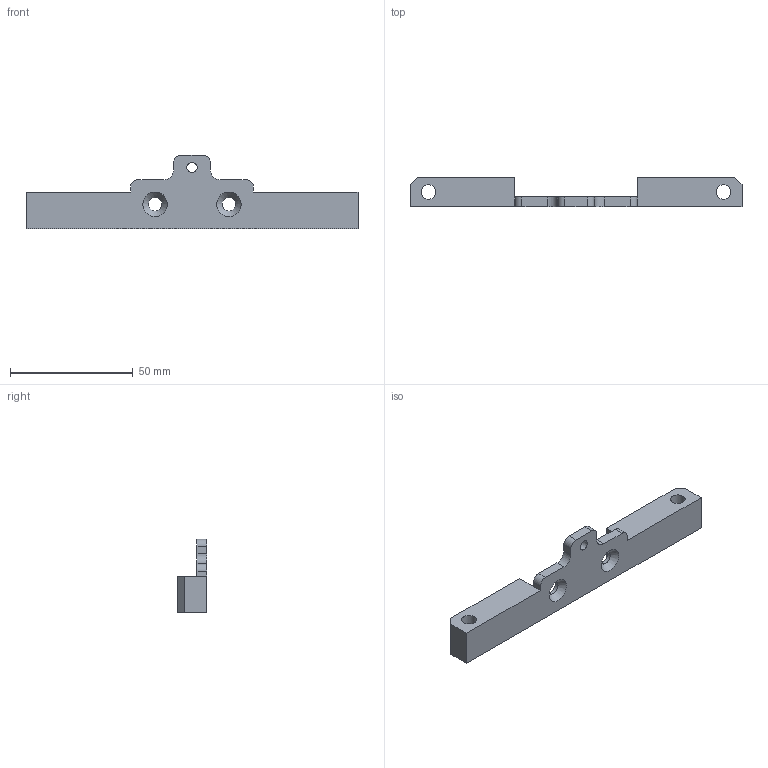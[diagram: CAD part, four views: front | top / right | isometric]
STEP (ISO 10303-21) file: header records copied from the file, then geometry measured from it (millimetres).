
FILE_DESCRIPTION( ( 'Unknown' ), '1' );
FILE_NAME( 'F:/navkite transat/construction/2016/3D ET ASSEMBLAGES/desal/DES 08.stp', 'Unknown', ( 'GMA' ), ( 'Unknown' ), 'XStep 1.0', 'Unknown', ' ' );
FILE_SCHEMA( ( 'automotive_design' ) );
Length unit declared in the file: millimetre
Products named in the file (1): 1
Bounding box: 135 x 12 x 30 mm (x, y, z)
Volume: 18541.5 mm3; surface area: 8391.9 mm2
Topology: 1 solids, 1 shells, 33 faces, 93 edges, 62 vertices
Faces by surface type: plane 20, cylinder 11, cone 2
Full cylindrical faces by diameter (mm): 4.134 x1, 5.5 x2, 6 x2
Entity records: 1300 total; most frequent: CARTESIAN_POINT 174, DIRECTION 174, ORIENTED_EDGE 164, EDGE_CURVE 82, AXIS2_PLACEMENT_3D 58, VERTEX_POINT 58, LINE 58, VECTOR 58
